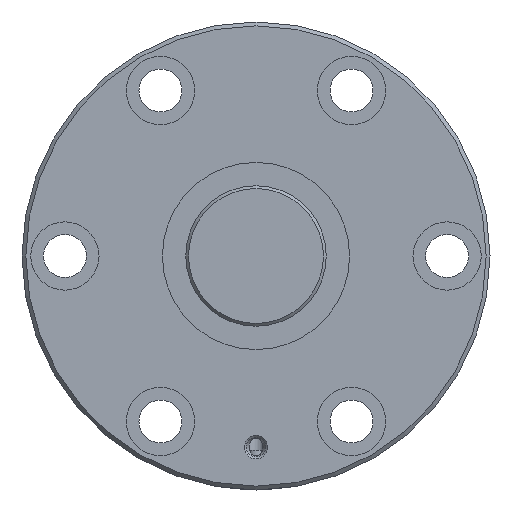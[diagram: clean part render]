
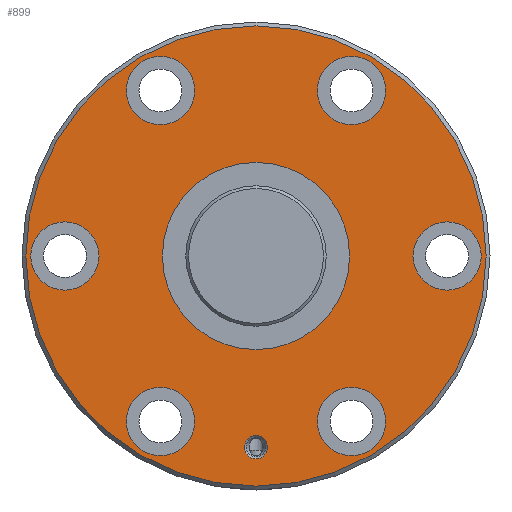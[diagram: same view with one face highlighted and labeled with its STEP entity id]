
A CAD part, left-side view. The second image highlights one B-rep face of the part: STEP entity #899.
In plain terms, the highlighted planar face has unit normal (-1, 0, 0).
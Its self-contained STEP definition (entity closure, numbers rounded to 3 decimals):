
#147=ORIENTED_EDGE('',*,*,#340,.T.);
#148=ORIENTED_EDGE('',*,*,#341,.T.);
#149=ORIENTED_EDGE('',*,*,#342,.T.);
#150=ORIENTED_EDGE('',*,*,#343,.T.);
#151=ORIENTED_EDGE('',*,*,#344,.T.);
#152=ORIENTED_EDGE('',*,*,#345,.T.);
#153=ORIENTED_EDGE('',*,*,#346,.T.);
#154=ORIENTED_EDGE('',*,*,#347,.T.);
#155=ORIENTED_EDGE('',*,*,#339,.F.);
#339=EDGE_CURVE('',#439,#439,#522,.T.);
#340=EDGE_CURVE('',#440,#440,#523,.T.);
#341=EDGE_CURVE('',#441,#441,#524,.F.);
#342=EDGE_CURVE('',#442,#442,#525,.T.);
#343=EDGE_CURVE('',#443,#443,#526,.T.);
#344=EDGE_CURVE('',#444,#444,#527,.T.);
#345=EDGE_CURVE('',#445,#445,#528,.T.);
#346=EDGE_CURVE('',#446,#446,#529,.T.);
#347=EDGE_CURVE('',#447,#447,#530,.T.);
#439=VERTEX_POINT('',#1508);
#440=VERTEX_POINT('',#1511);
#441=VERTEX_POINT('',#1513);
#442=VERTEX_POINT('',#1515);
#443=VERTEX_POINT('',#1517);
#444=VERTEX_POINT('',#1519);
#445=VERTEX_POINT('',#1521);
#446=VERTEX_POINT('',#1523);
#447=VERTEX_POINT('',#1525);
#522=CIRCLE('',#1005,59.);
#523=CIRCLE('',#1007,24.);
#524=CIRCLE('',#1008,8.75);
#525=CIRCLE('',#1009,3.);
#526=CIRCLE('',#1010,8.75);
#527=CIRCLE('',#1011,8.75);
#528=CIRCLE('',#1012,8.75);
#529=CIRCLE('',#1013,8.75);
#530=CIRCLE('',#1014,8.75);
#602=EDGE_LOOP('',(#147));
#603=EDGE_LOOP('',(#148));
#604=EDGE_LOOP('',(#149));
#605=EDGE_LOOP('',(#150));
#606=EDGE_LOOP('',(#151));
#607=EDGE_LOOP('',(#152));
#608=EDGE_LOOP('',(#153));
#609=EDGE_LOOP('',(#154));
#610=EDGE_LOOP('',(#155));
#742=FACE_BOUND('',#602,.T.);
#743=FACE_BOUND('',#603,.T.);
#744=FACE_BOUND('',#604,.T.);
#745=FACE_BOUND('',#605,.T.);
#746=FACE_BOUND('',#606,.T.);
#747=FACE_BOUND('',#607,.T.);
#748=FACE_BOUND('',#608,.T.);
#749=FACE_BOUND('',#609,.T.);
#750=FACE_BOUND('',#610,.T.);
#864=PLANE('',#1006);
#899=ADVANCED_FACE('',(#742,#743,#744,#745,#746,#747,#748,#749,#750),#864,
 .T.);
#1005=AXIS2_PLACEMENT_3D('',#1507,#1171,#1172);
#1006=AXIS2_PLACEMENT_3D('',#1509,#1173,#1174);
#1007=AXIS2_PLACEMENT_3D('',#1510,#1175,#1176);
#1008=AXIS2_PLACEMENT_3D('',#1512,#1177,#1178);
#1009=AXIS2_PLACEMENT_3D('',#1514,#1179,#1180);
#1010=AXIS2_PLACEMENT_3D('',#1516,#1181,#1182);
#1011=AXIS2_PLACEMENT_3D('',#1518,#1183,#1184);
#1012=AXIS2_PLACEMENT_3D('',#1520,#1185,#1186);
#1013=AXIS2_PLACEMENT_3D('',#1522,#1187,#1188);
#1014=AXIS2_PLACEMENT_3D('',#1524,#1189,#1190);
#1171=DIRECTION('',(1.,0.,0.));
#1172=DIRECTION('',(0.,0.,-1.));
#1173=DIRECTION('',(-1.,0.,0.));
#1174=DIRECTION('',(0.,0.,1.));
#1175=DIRECTION('',(1.,0.,0.));
#1176=DIRECTION('',(0.,0.,-1.));
#1177=DIRECTION('',(-1.,0.,0.));
#1178=DIRECTION('',(0.,0.,1.));
#1179=DIRECTION('',(1.,0.,0.));
#1180=DIRECTION('',(0.,0.,-1.));
#1181=DIRECTION('',(1.,0.,0.));
#1182=DIRECTION('',(0.,0.,-1.));
#1183=DIRECTION('',(1.,0.,0.));
#1184=DIRECTION('',(0.,0.,-1.));
#1185=DIRECTION('',(1.,0.,0.));
#1186=DIRECTION('',(0.,0.,-1.));
#1187=DIRECTION('',(1.,0.,0.));
#1188=DIRECTION('',(0.,0.,-1.));
#1189=DIRECTION('',(1.,0.,0.));
#1190=DIRECTION('',(0.,0.,-1.));
#1507=CARTESIAN_POINT('',(0.,0.,0.));
#1508=CARTESIAN_POINT('',(0.,0.,-59.));
#1509=CARTESIAN_POINT('',(0.,59.,0.));
#1510=CARTESIAN_POINT('',(0.,0.,0.));
#1511=CARTESIAN_POINT('',(0.,0.,-24.));
#1512=CARTESIAN_POINT('',(0.,49.,0.));
#1513=CARTESIAN_POINT('',(0.,49.,8.75));
#1514=CARTESIAN_POINT('',(0.,0.,-49.));
#1515=CARTESIAN_POINT('',(0.,0.,-52.));
#1516=CARTESIAN_POINT('',(0.,-49.,0.));
#1517=CARTESIAN_POINT('',(0.,-49.,-8.75));
#1518=CARTESIAN_POINT('',(0.,24.5,42.435));
#1519=CARTESIAN_POINT('',(0.,24.5,33.685));
#1520=CARTESIAN_POINT('',(0.,-24.5,-42.435));
#1521=CARTESIAN_POINT('',(0.,-24.5,-51.185));
#1522=CARTESIAN_POINT('',(0.,-24.5,42.435));
#1523=CARTESIAN_POINT('',(0.,-24.5,33.685));
#1524=CARTESIAN_POINT('',(0.,24.5,-42.435));
#1525=CARTESIAN_POINT('',(0.,24.5,-51.185));
